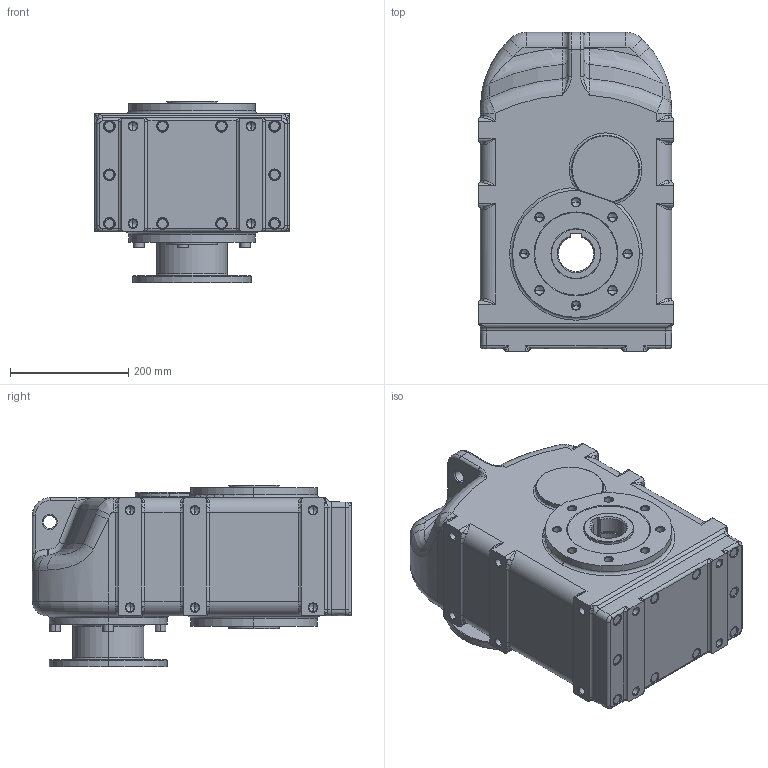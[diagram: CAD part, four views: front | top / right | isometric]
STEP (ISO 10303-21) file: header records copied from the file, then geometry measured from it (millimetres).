
FILE_DESCRIPTION (( 'STEP AP214' ), '1' );
FILE_NAME ('tnc53-f165-ap90.STEP', '2009-09-18T09:17:57', ( '' ), ( '' ), 'SwSTEP 2.0', 'SolidWorks 2003240', '' );
FILE_SCHEMA (( 'AUTOMOTIVE_DESIGN' ));
Length unit declared in the file: millimetre
Products named in the file (2): Skøíò TNC5_Skøíò TNC53 AP90; tnc53-f165-ap90
Assembly tree (1 placements, depth 2):
  tnc53-f165-ap90
    Skøíò TNC5_Skøíò TNC53 AP90
Bounding box: 330 x 541 x 307 mm (x, y, z)
Volume: 33623876 mm3; surface area: 851450.1 mm2
Topology: 1 solids, 1 shells, 692 faces, 1669 edges, 939 vertices
Faces by surface type: cylinder 246, cone 159, plane 112, torus 94, bspline 81
Entity records: 108770 total; most frequent: CARTESIAN_POINT 92568, DIRECTION 3410, ORIENTED_EDGE 3142, EDGE_CURVE 1571, AXIS2_PLACEMENT_3D 1399, VERTEX_POINT 939, CIRCLE 784, EDGE_LOOP 762
